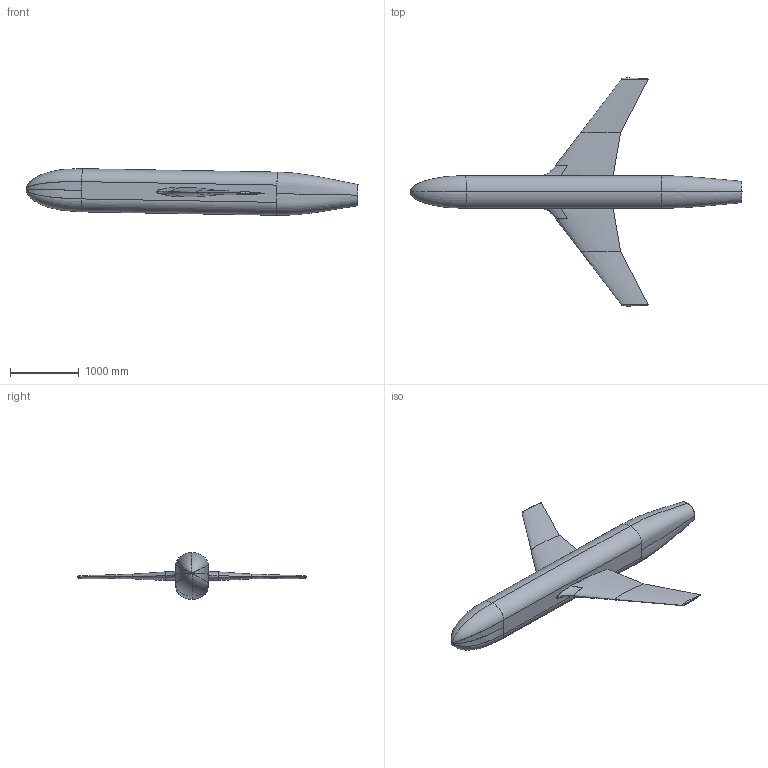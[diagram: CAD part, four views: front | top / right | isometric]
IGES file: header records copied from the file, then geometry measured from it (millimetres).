
Global section: file name: Z:\prj6.0\JFM_2018\outgoing\2022_scanned_data_JFM_0015_w_horn\2022 scans\model in tunnel at 1 deg mod\jfm_0015_based_wHorn_harrison_fuselage_2017_02_06_fullspan-1deg_in_tunnel_mod.igs; native system: NX V10.0; preprocessor: SIEMENS PLM Software NX 10.0; date: 20220822.141923; units: millimetre
Bounding box: 4841.18 x 3325.92 x 679.27 mm (x, y, z)
Surface area: 11766148.3 mm2 (no closed solid volume)
Topology: 0 solids, 0 shells, 41 faces, 281 edges, 273 vertices
Faces by surface type: bspline 41
